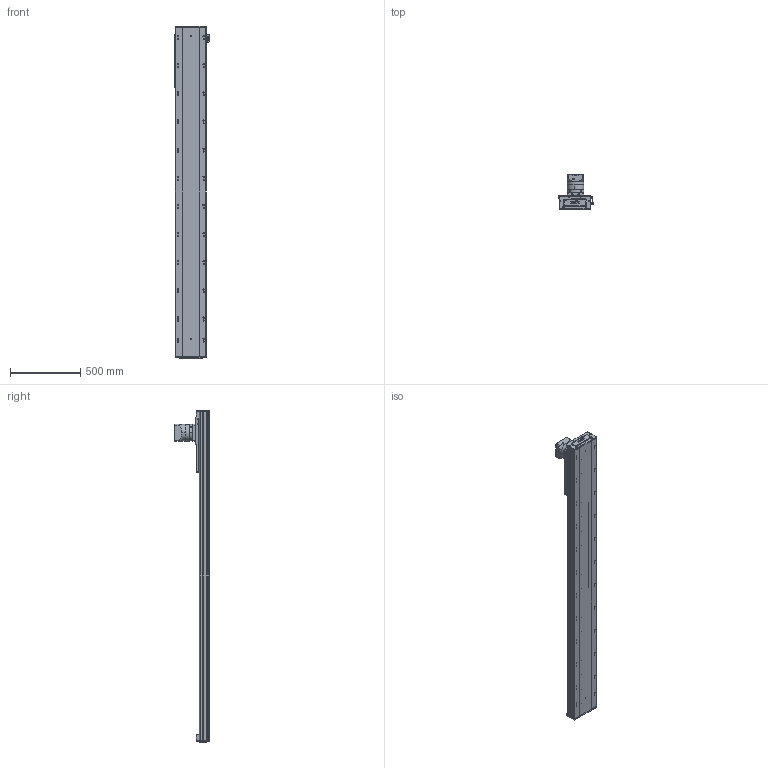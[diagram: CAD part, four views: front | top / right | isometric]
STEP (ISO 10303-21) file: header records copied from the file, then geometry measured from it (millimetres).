
FILE_DESCRIPTION (( 'STEP AP203' ), '1' );
FILE_NAME ('RY220-C-300-UK.SLDASM_1850.step', '2022-08-01T05:59:40', ( '' ), ( '' ), 'SwSTEP 2.0', 'SolidWorks 2016', '' );
FILE_SCHEMA (( 'CONFIG_CONTROL_DESIGN' ));
Length unit declared in the file: millimetre
Products named in the file (10): RY220喘沭俋离覜茼え; PF115L1-S2-22-58-110-145-M8; RY220-C-300-UK.SLDASM_1850; RY220-齿条模组电机安装板; 滅袉蝶輸ㄗG412隅秶ㄘ; RY140直线电机感应器674光电安装座; 覜茼ん674; RY220喘沭綴裔啣; RY220喘沭賑輸; RY220菁釱MK-300_1850
Assembly tree (12 placements, depth 2):
  RY220-C-300-UK.SLDASM_1850
    RY220菁釱MK-300_1850
    RY220喘沭賑輸
    RY220-齿条模组电机安装板
    PF115L1-S2-22-58-110-145-M8
    RY220喘沭綴裔啣  x2
    滅袉蝶輸ㄗG412隅秶ㄘ  x2
    RY140直线电机感应器674光电安装座
    覜茼ん674  x2
    RY220喘沭俋离覜茼え
Bounding box: 247 x 244.5 x 2359 mm (x, y, z)
Volume: 16969727.8 mm3; surface area: 3430631.9 mm2
Topology: 18 solids, 26 shells, 2166 faces, 5821 edges, 3667 vertices
Faces by surface type: cylinder 1023, plane 751, cone 230, bspline 162
Entity records: 68677 total; most frequent: CARTESIAN_POINT 18761, DIRECTION 10259, ORIENTED_EDGE 10082, EDGE_CURVE 5041, AXIS2_PLACEMENT_3D 3913, VERTEX_POINT 3293, EDGE_LOOP 2498, LINE 2433
